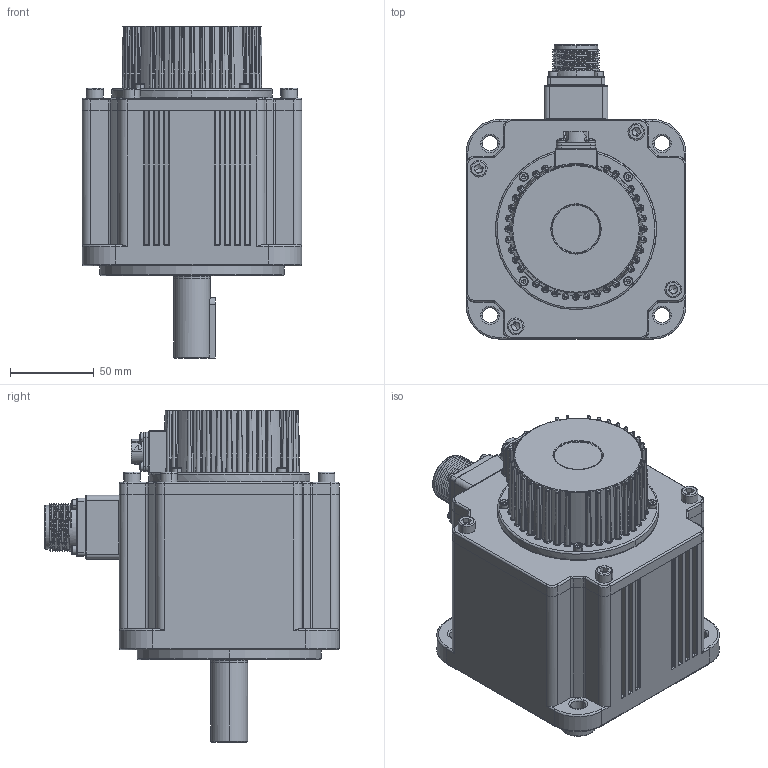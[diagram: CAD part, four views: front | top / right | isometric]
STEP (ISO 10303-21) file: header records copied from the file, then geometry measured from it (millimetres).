
FILE_DESCRIPTION (( 'STEP AP203' ), '1' );
FILE_NAME ('V7-130#电机组件（不带刹车）-40长铁芯.STEP', '2024-05-07T11:40:20', ( 'IT' ), ( '' ), 'SwSTEP 2.0', 'SolidWorks 2014', '' );
FILE_SCHEMA (( 'CONFIG_CONTROL_DESIGN' ));
Length unit declared in the file: millimetre
Products named in the file (22): 蚐猾 D00B999YF7-TC 30-42-7; 囀鞠褒 M3X10; V7-130#定子组件（不带刹车）-40; SC_6204 Ball; 雄薯盄釱砎蝶菜200910; SC晤鎢ん欶200908_9郋; 綴傷裔200903-4晚源倛; SC_6204 Outer ring; 粣200907-40; 囀鞠褒 M6X20; 囀鞠褒 M3X30; E13B101BA4-40; V7-130#电机组件（不带刹车）-40长铁芯; 8x7x36瑩; 130綴傷裔200917; SCGB／T276-94深沟球轴承6206-2Z; SC6204; SC瑤諾脣芛 CMS3102A18-10P-Z; SC_6204 Inner ring; 雄薯瑤脣釱200909; pan head cross recess screw_din_ISO 7045 - M3 x 8 - Z --- 8C; 瑤諾脣芛 SC-CMV1-R10P-1
Assembly tree (41 placements, depth 3):
  V7-130#电机组件（不带刹车）-40长铁芯
    V7-130#定子组件（不带刹车）-40
      雄薯盄釱砎蝶菜200910
      雄薯瑤脣釱200909
      SC瑤諾脣芛 CMS3102A18-10P-Z
      囀鞠褒 M3X30  x4
      E13B101BA4-40
    囀鞠褒 M6X20  x4
    SC晤鎢ん欶200908_9郋
    囀鞠褒 M3X10  x4
    蚐猾 D00B999YF7-TC 30-42-7
    130綴傷裔200917
      綴傷裔200903-4晚源倛
    瑤諾脣芛 SC-CMV1-R10P-1
    SCGB／T276-94深沟球轴承6206-2Z
    SC6204
      SC_6204 Outer ring
      SC_6204 Inner ring
      SC_6204 Ball  x9
    粣200907-40
    8x7x36瑩
    pan head cross recess screw_din_ISO 7045 - M3 x 8 - Z --- 8C  x4
Bounding box: 131 x 175.4 x 198 mm (x, y, z)
Volume: 789088.1 mm3; surface area: 291551.6 mm2
Topology: 39 solids, 39 shells, 2939 faces, 7161 edges, 4144 vertices
Faces by surface type: cylinder 940, bspline 809, plane 652, cone 258, torus 192, sphere 88
Entity records: 111020 total; most frequent: CARTESIAN_POINT 53839, ORIENTED_EDGE 12094, DIRECTION 10572, EDGE_CURVE 6047, AXIS2_PLACEMENT_3D 4412, VERTEX_POINT 3592, EDGE_LOOP 2787, CIRCLE 2605
